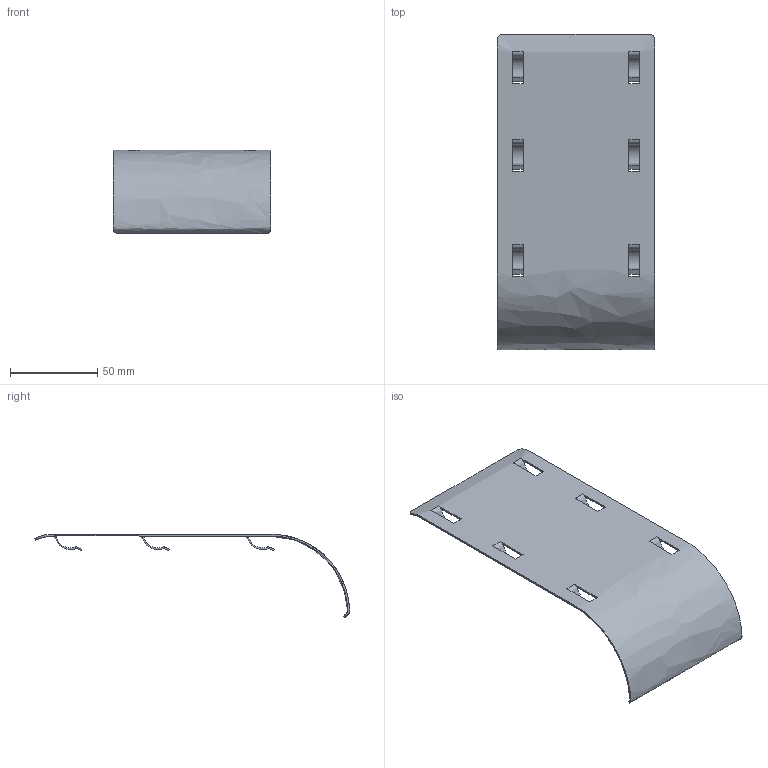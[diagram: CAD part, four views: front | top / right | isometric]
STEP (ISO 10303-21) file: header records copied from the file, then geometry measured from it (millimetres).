
FILE_DESCRIPTION(/* description */ (''),/* implementation_level */ '2;1');
FILE_NAME(/* name */ 'KSM',/* time_stamp */ '2012-11-29T22:57:10+01:00',/* author */ (''),/* organization */ (''),/* preprocessor_version */ 'ST-DEVELOPER v10',/* originating_system */ '',/* authorisation */ '');
FILE_SCHEMA (('AUTOMOTIVE_DESIGN_CC2'));
Length unit declared in the file: millimetre
Products named in the file (1): 1
Bounding box: 90 x 180.39 x 47.83 mm (x, y, z)
Surface area: 39006.3 mm2 (no closed solid volume)
Topology: 0 solids, 76 shells, 76 faces, 372 edges, 372 vertices
Faces by surface type: plane 52, bspline 24
Entity records: 6402 total; most frequent: CARTESIAN_POINT 3816, ORIENTED_EDGE 372, EDGE_CURVE 372, VERTEX_POINT 372, B_SPLINE_CURVE_WITH_KNOTS 272, EDGE_LOOP 88, COLOUR_RGB 76, FILL_AREA_STYLE_COLOUR 76
